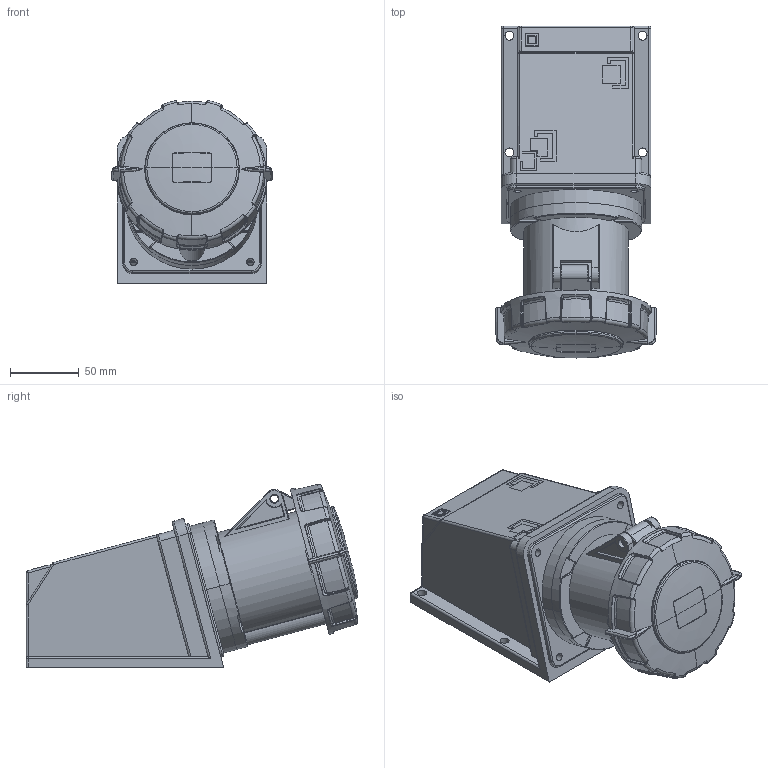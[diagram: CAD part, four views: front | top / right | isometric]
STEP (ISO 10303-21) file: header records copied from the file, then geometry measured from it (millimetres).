
FILE_DESCRIPTION(('FreeCAD Model'),'2;1');
FILE_NAME('Open CASCADE Shape Model','2026-02-04T11:32:48',(''),(''), 'Open CASCADE STEP processor 7.8','FreeCAD','Unknown');
FILE_SCHEMA(('AUTOMOTIVE_DESIGN { 1 0 10303 214 1 1 1 1 }'));
Length unit declared in the file: millimetre
Products named in the file (9): TL3S63632; Tampa parte 1; Proteção terminais; Base externa; Tampa parte 2; Tomada; Terminais; Estrutura corpo; Base interna
Assembly tree (8 placements, depth 2):
  TL3S63632
    Tampa parte 1
    Proteção terminais
    Base externa
    Tampa parte 2
    Tomada
    Terminais
    Estrutura corpo
    Base interna
Bounding box: 117.39 x 241.81 x 133.4 mm (x, y, z)
Volume: 924766.8 mm3; surface area: 278857.3 mm2
Topology: 8 solids, 8 shells, 1752 faces, 4980 edges, 3304 vertices
Faces by surface type: plane 931, cylinder 385, bspline 244, torus 111, cone 63, sphere 18
Full cylindrical faces by diameter (mm): 5.5 x4, 6.5 x4, 18.5 x1, 40.5 x1, 74 x1, 78 x1, 89 x1, 99.8 x1
Entity records: 92649 total; most frequent: CARTESIAN_POINT 49351, ORIENTED_EDGE 9934, DIRECTION 7734, EDGE_CURVE 4967, VERTEX_POINT 3304, AXIS2_PLACEMENT_3D 2669, LINE 2396, VECTOR 2396
